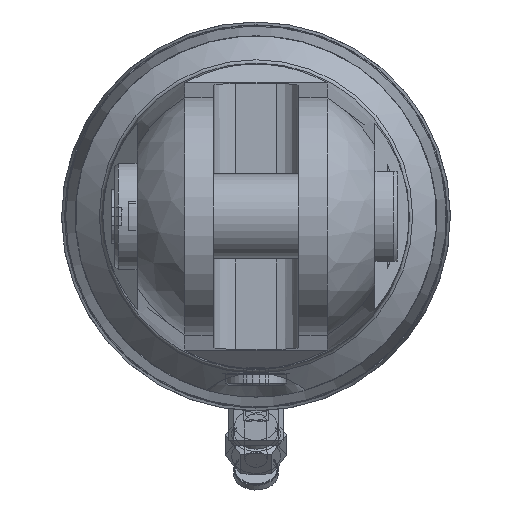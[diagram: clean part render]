
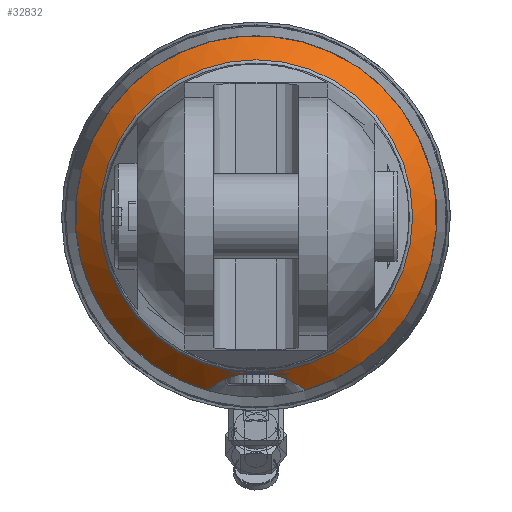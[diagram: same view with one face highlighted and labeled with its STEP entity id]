
A CAD part, left-side view. The second image highlights one B-rep face of the part: STEP entity #32832.
In plain terms, the highlighted conical face has half-angle 45.366 degrees and reference radius 75.632 mm.
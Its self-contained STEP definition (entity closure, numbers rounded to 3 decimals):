
#1770=B_SPLINE_CURVE_WITH_KNOTS('',3,(#58973,#58974,#58975,#58976,#58977,
#58978,#58979,#58980,#58981,#58982,#58983,#58984),.UNSPECIFIED.,.F.,.F.,
(4,2,2,2,2,4),(2.233,3.275,3.655,4.035,
4.415,4.795),.UNSPECIFIED.);
#1773=B_SPLINE_CURVE_WITH_KNOTS('',3,(#59028,#59029,#59030,#59031,#59032,
#59033,#59034,#59035,#59036,#59037,#59038,#59039),.UNSPECIFIED.,.F.,.F.,
(4,2,2,2,2,4),(4.795,5.175,5.555,5.934,
6.314,7.356),.UNSPECIFIED.);
#2060=CONICAL_SURFACE('',#34160,75.631,0.792);
#2260=CIRCLE('',#34159,81.);
#2261=CIRCLE('',#34161,70.263);
#2262=CIRCLE('',#34162,70.263);
#4033=FACE_OUTER_BOUND('',#5875,.T.);
#5875=EDGE_LOOP('',(#27505,#27506,#27507,#27508,#27509));
#14637=VERTEX_POINT('',#58960);
#14641=VERTEX_POINT('',#58972);
#14643=VERTEX_POINT('',#59007);
#14648=VERTEX_POINT('',#59116);
#18988=EDGE_CURVE('',#14641,#14637,#1770,.T.);
#18991=EDGE_CURVE('',#14637,#14643,#1773,.T.);
#18997=EDGE_CURVE('',#14641,#14643,#2260,.T.);
#18999=EDGE_CURVE('',#14637,#14648,#2261,.T.);
#19000=EDGE_CURVE('',#14648,#14637,#2262,.T.);
#27505=ORIENTED_EDGE('',*,*,#18991,.T.);
#27506=ORIENTED_EDGE('',*,*,#18997,.F.);
#27507=ORIENTED_EDGE('',*,*,#18988,.T.);
#27508=ORIENTED_EDGE('',*,*,#18999,.T.);
#27509=ORIENTED_EDGE('',*,*,#19000,.T.);
#32832=ADVANCED_FACE('',(#4033),#2060,.T.);
#34159=AXIS2_PLACEMENT_3D('',#59083,#39372,#39373);
#34160=AXIS2_PLACEMENT_3D('',#59115,#39374,#39375);
#34161=AXIS2_PLACEMENT_3D('',#59117,#39376,#39377);
#34162=AXIS2_PLACEMENT_3D('',#59118,#39378,#39379);
#39372=DIRECTION('center_axis',(1.,0.,0.));
#39373=DIRECTION('ref_axis',(0.,0.,
1.));
#39374=DIRECTION('center_axis',(1.,0.,0.));
#39375=DIRECTION('ref_axis',(0.,0.,
1.));
#39376=DIRECTION('center_axis',(1.,0.,0.));
#39377=DIRECTION('ref_axis',(0.,0.,
1.));
#39378=DIRECTION('center_axis',(1.,0.,0.));
#39379=DIRECTION('ref_axis',(0.,0.,
1.));
#58960=CARTESIAN_POINT('',(-4112.961,0.,-70.263));
#58972=CARTESIAN_POINT('',(-4102.36,22.203,-77.898));
#58973=CARTESIAN_POINT('Ctrl Pts',(-4102.36,22.203,-77.898));
#58974=CARTESIAN_POINT('Ctrl Pts',(-4104.659,19.938,-76.122));
#58975=CARTESIAN_POINT('Ctrl Pts',(-4106.763,17.441,-74.567));
#58976=CARTESIAN_POINT('Ctrl Pts',(-4109.117,13.687,-72.887));
#58977=CARTESIAN_POINT('Ctrl Pts',(-4109.73,12.594,-72.457));
#58978=CARTESIAN_POINT('Ctrl Pts',(-4110.838,10.27,-71.689));
#58979=CARTESIAN_POINT('Ctrl Pts',(-4111.333,9.04,-71.352));
#58980=CARTESIAN_POINT('Ctrl Pts',(-4112.139,6.503,-70.807));
#58981=CARTESIAN_POINT('Ctrl Pts',(-4112.451,5.195,-70.6));
#58982=CARTESIAN_POINT('Ctrl Pts',(-4112.862,2.576,-70.328));
#58983=CARTESIAN_POINT('Ctrl Pts',(-4112.961,1.266,-70.263));
#58984=CARTESIAN_POINT('Ctrl Pts',(-4112.961,0.,
-70.263));
#59007=CARTESIAN_POINT('',(-4102.36,-22.203,-77.898));
#59028=CARTESIAN_POINT('Ctrl Pts',(-4112.961,0.,
-70.263));
#59029=CARTESIAN_POINT('Ctrl Pts',(-4112.961,-1.266,
-70.263));
#59030=CARTESIAN_POINT('Ctrl Pts',(-4112.862,-2.576,
-70.328));
#59031=CARTESIAN_POINT('Ctrl Pts',(-4112.451,-5.195,
-70.6));
#59032=CARTESIAN_POINT('Ctrl Pts',(-4112.139,-6.503,
-70.807));
#59033=CARTESIAN_POINT('Ctrl Pts',(-4111.333,-9.04,-71.352));
#59034=CARTESIAN_POINT('Ctrl Pts',(-4110.838,-10.27,
-71.689));
#59035=CARTESIAN_POINT('Ctrl Pts',(-4109.73,-12.594,
-72.457));
#59036=CARTESIAN_POINT('Ctrl Pts',(-4109.117,-13.687,
-72.887));
#59037=CARTESIAN_POINT('Ctrl Pts',(-4106.763,-17.441,
-74.567));
#59038=CARTESIAN_POINT('Ctrl Pts',(-4104.659,-19.938,
-76.122));
#59039=CARTESIAN_POINT('Ctrl Pts',(-4102.36,-22.203,-77.898));
#59083=CARTESIAN_POINT('Origin',(-4102.36,0.,0.));
#59115=CARTESIAN_POINT('Origin',(-4107.66,0.,
0.));
#59116=CARTESIAN_POINT('',(-4112.961,70.263,0.));
#59117=CARTESIAN_POINT('Origin',(-4112.961,0.,
0.));
#59118=CARTESIAN_POINT('Origin',(-4112.961,0.,
0.));
